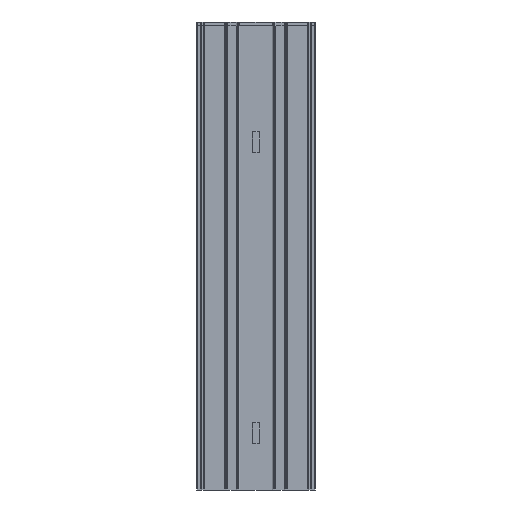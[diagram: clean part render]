
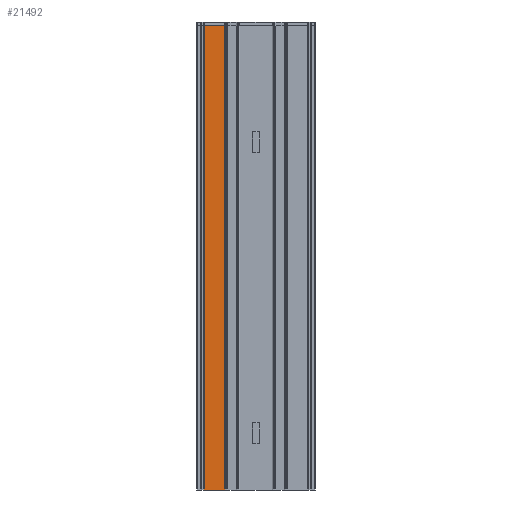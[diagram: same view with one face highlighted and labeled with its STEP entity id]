
A CAD part, front view. The second image highlights one B-rep face of the part: STEP entity #21492.
In plain terms, the highlighted planar face has unit normal (0, -1, 0).
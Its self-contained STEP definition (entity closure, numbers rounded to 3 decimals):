
#334 = VERTEX_POINT ( 'NONE', #18957 ) ;
#801 = CARTESIAN_POINT ( 'NONE',  ( -219.324, -0.7, 0. ) ) ;
#1172 = CARTESIAN_POINT ( 'NONE',  ( -132.675, -0.7, 1961.5 ) ) ;
#1823 = EDGE_LOOP ( 'NONE', ( #22345, #11042, #16494, #25815 ) ) ;
#2038 = CARTESIAN_POINT ( 'NONE',  ( -161.558, -0.7, 1961.5 ) ) ;
#2721 = DIRECTION ( 'NONE',  ( 0., 0., -1. ) ) ;
#4630 = LINE ( 'NONE', #6657, #25789 ) ;
#6657 = CARTESIAN_POINT ( 'NONE',  ( -219.324, -0.7, 1961.5 ) ) ;
#6732 = EDGE_CURVE ( 'NONE', #334, #22225, #17467, .T. ) ;
#7654 = AXIS2_PLACEMENT_3D ( 'NONE', #1172, #9380, #17566 ) ;
#7655 = DIRECTION ( 'NONE',  ( -1., 0., 0. ) ) ;
#9234 = FACE_OUTER_BOUND ( 'NONE', #1823, .T. ) ;
#9380 = DIRECTION ( 'NONE',  ( 0., -1., 0. ) ) ;
#11042 = ORIENTED_EDGE ( 'NONE', *, *, #14207, .F. ) ;
#11231 = DIRECTION ( 'NONE',  ( 0., 0., -1. ) ) ;
#11600 = EDGE_CURVE ( 'NONE', #17154, #15438, #24441, .T. ) ;
#12473 = EDGE_CURVE ( 'NONE', #15438, #22225, #4630, .T. ) ;
#13375 = CARTESIAN_POINT ( 'NONE',  ( -190.441, -0.7, 1961.5 ) ) ;
#13399 = PLANE ( 'NONE',  #7654 ) ;
#13645 = CARTESIAN_POINT ( 'NONE',  ( -132.675, -0.7, 1961.5 ) ) ;
#14207 = EDGE_CURVE ( 'NONE', #17154, #334, #19127, .T. ) ;
#15438 = VERTEX_POINT ( 'NONE', #22394 ) ;
#16494 = ORIENTED_EDGE ( 'NONE', *, *, #11600, .T. ) ;
#17154 = VERTEX_POINT ( 'NONE', #22045 ) ;
#17467 = LINE ( 'NONE', #25684, #21288 ) ;
#17566 = DIRECTION ( 'NONE',  ( 0., 0., -1. ) ) ;
#18438 = CARTESIAN_POINT ( 'NONE',  ( -219.324, -0.7, 1961.5 ) ) ;
#18957 = CARTESIAN_POINT ( 'NONE',  ( -132.675, -0.7, 0. ) ) ;
#19127 = LINE ( 'NONE', #21007, #19815 ) ;
#19815 = VECTOR ( 'NONE', #2721, 1000. ) ;
#21007 = CARTESIAN_POINT ( 'NONE',  ( -132.675, -0.7, 1961.5 ) ) ;
#21288 = VECTOR ( 'NONE', #7655, 1000. ) ;
#21492 = ADVANCED_FACE ( 'NONE', ( #9234 ), #13399, .T. ) ;
#22045 = CARTESIAN_POINT ( 'NONE',  ( -132.675, -0.7, 1961.5 ) ) ;
#22225 = VERTEX_POINT ( 'NONE', #801 ) ;
#22345 = ORIENTED_EDGE ( 'NONE', *, *, #6732, .F. ) ;
#22394 = CARTESIAN_POINT ( 'NONE',  ( -219.324, -0.7, 1961.5 ) ) ;
#24441 = B_SPLINE_CURVE_WITH_KNOTS ( 'NONE', 3,
 ( #13645, #2038, #13375, #18438 ),
 .UNSPECIFIED., .F., .F.,
 ( 4, 4 ),
 ( 0., 1. ),
 .UNSPECIFIED. ) ;
#25684 = CARTESIAN_POINT ( 'NONE',  ( -132.675, -0.7, 0. ) ) ;
#25789 = VECTOR ( 'NONE', #11231, 1000. ) ;
#25815 = ORIENTED_EDGE ( 'NONE', *, *, #12473, .T. ) ;
